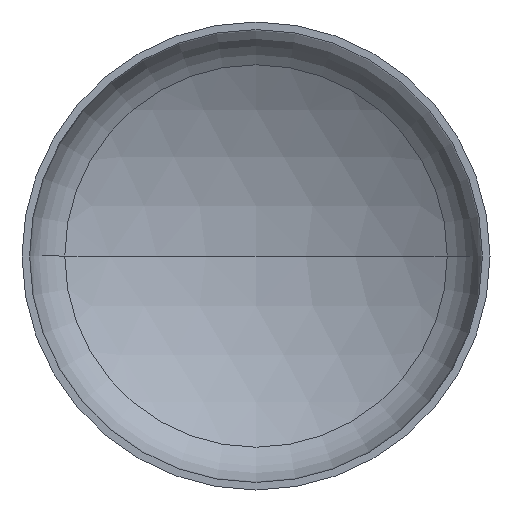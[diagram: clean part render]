
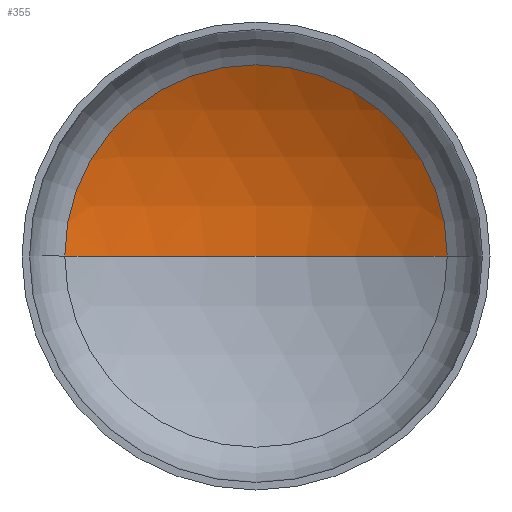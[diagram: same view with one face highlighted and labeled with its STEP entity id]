
A CAD part, front view. The second image highlights one B-rep face of the part: STEP entity #355.
In plain terms, the highlighted spherical face has radius 2080 mm.
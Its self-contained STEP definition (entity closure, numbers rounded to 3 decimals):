
#5 = ORIENTED_EDGE ( 'NONE', *, *, #327, .T. ) ;
#6 = AXIS2_PLACEMENT_3D ( 'NONE', #238, #170, #145 ) ;
#12 = ORIENTED_EDGE ( 'NONE', *, *, #337, .F. ) ;
#17 = AXIS2_PLACEMENT_3D ( 'NONE', #156, #209, #332 ) ;
#35 = VERTEX_POINT ( 'NONE', #255 ) ;
#36 = VERTEX_POINT ( 'NONE', #354 ) ;
#38 = AXIS2_PLACEMENT_3D ( 'NONE', #158, #160, #212 ) ;
#42 = AXIS2_PLACEMENT_3D ( 'NONE', #171, #138, #139 ) ;
#87 = VERTEX_POINT ( 'NONE', #223 ) ;
#111 = EDGE_LOOP ( 'NONE', ( #12, #5, #117 ) ) ;
#117 = ORIENTED_EDGE ( 'NONE', *, *, #347, .T. ) ;
#138 = DIRECTION ( 'NONE',  ( 0., 0., -1. ) ) ;
#139 = DIRECTION ( 'NONE',  ( -1., 0., 0. ) ) ;
#145 = DIRECTION ( 'NONE',  ( -1., 0., 0. ) ) ;
#156 = CARTESIAN_POINT ( 'NONE',  ( 0., 473.9, 0. ) ) ;
#158 = CARTESIAN_POINT ( 'NONE',  ( 0., -1314.381, 0. ) ) ;
#160 = DIRECTION ( 'NONE',  ( 0., 0., 1. ) ) ;
#170 = DIRECTION ( 'NONE',  ( 0., 0., -1. ) ) ;
#171 = CARTESIAN_POINT ( 'NONE',  ( 0., -1314.381, 0. ) ) ;
#182 = SPHERICAL_SURFACE ( 'NONE', #6, 2080. ) ;
#192 = CIRCLE ( 'NONE', #17, 1062.286 ) ;
#209 = DIRECTION ( 'NONE',  ( 0., -1., 0. ) ) ;
#212 = DIRECTION ( 'NONE',  ( 1., 0., 0. ) ) ;
#223 = CARTESIAN_POINT ( 'NONE',  ( 0., 765.619, 0. ) ) ;
#238 = CARTESIAN_POINT ( 'NONE',  ( 0., -1314.381, 0. ) ) ;
#255 = CARTESIAN_POINT ( 'NONE',  ( 1062.286, 473.9, 0. ) ) ;
#258 = CIRCLE ( 'NONE', #38, 2080. ) ;
#314 = FACE_OUTER_BOUND ( 'NONE', #111, .T. ) ;
#327 = EDGE_CURVE ( 'NONE', #87, #35, #328, .T. ) ;
#328 = CIRCLE ( 'NONE', #42, 2080. ) ;
#332 = DIRECTION ( 'NONE',  ( 1., 0., 0. ) ) ;
#337 = EDGE_CURVE ( 'NONE', #87, #36, #258, .T. ) ;
#347 = EDGE_CURVE ( 'NONE', #35, #36, #192, .T. ) ;
#354 = CARTESIAN_POINT ( 'NONE',  ( -1062.286, 473.9, 0. ) ) ;
#355 = ADVANCED_FACE ( 'NONE', ( #314 ), #182, .F. ) ;
